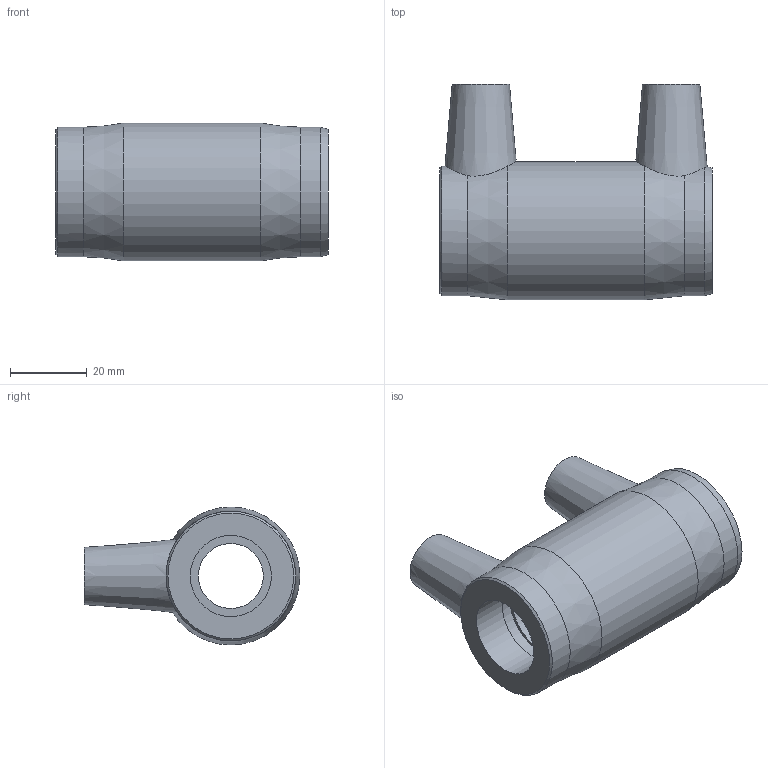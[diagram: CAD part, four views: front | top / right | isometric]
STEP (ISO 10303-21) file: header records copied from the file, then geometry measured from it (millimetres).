
FILE_DESCRIPTION(/* description */ ('PLASSON IPS COUPLER 1/2'''''),/* implementation_level */ '2;1');
FILE_NAME(/* name */ 'C:\Dropbox\KIMPROJECTS-Inventor 2019\99-16-3568-Processing Inch\ASTM ElectroFusion 2021\5901B\5901B004005.ipt.stp',/* time_stamp */ '2021-08-30T09:48:49+03:00',/* author */ ('KIM'),/* organization */ (''),/* preprocessor_version */ 'ST-DEVELOPER v17.2',/* originating_system */ 'Autodesk Inventor 2019',/* authorisation */ '');
FILE_SCHEMA (('AUTOMOTIVE_DESIGN { 1 0 10303 214 3 1 1 }'));
Length unit declared in the file: inch
Products named in the file (1): 5901B004005
Bounding box: 71.12 x 56.39 x 36.07 mm (x, y, z)
Volume: 52424.4 mm3; surface area: 17392.7 mm2
Topology: 1 solids, 1 shells, 34 faces, 82 edges, 58 vertices
Faces by surface type: plane 12, cylinder 12, cone 10
Full cylindrical faces by diameter (mm): 4 x2, 10 x2, 16.96 x1, 21.2 x4, 33.904 x1, 36.068 x1
Entity records: 1162 total; most frequent: CARTESIAN_POINT 281, DIRECTION 189, ORIENTED_EDGE 164, AXIS2_PLACEMENT_3D 86, EDGE_CURVE 82, VERTEX_POINT 58, CIRCLE 51, EDGE_LOOP 44
